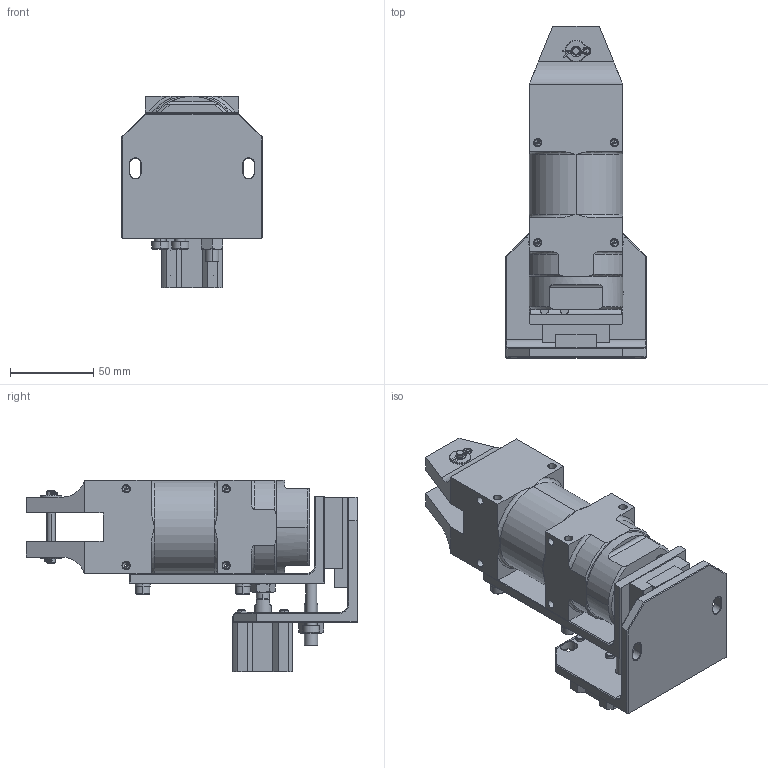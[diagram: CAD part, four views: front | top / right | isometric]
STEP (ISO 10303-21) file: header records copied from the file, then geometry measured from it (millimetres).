
FILE_DESCRIPTION (( 'STEP AP214' ), '1' );
FILE_NAME ('GTNB30LW10TM.STEP', '2019-11-29T09:04:38', ( '微软用户' ), ( '微软中国' ), 'SwSTEP 2.0', 'SolidWorks 2016', '' );
FILE_SCHEMA (( 'AUTOMOTIVE_DESIGN' ));
Length unit declared in the file: millimetre
Products named in the file (1): GTNB30LW10TM
Bounding box: 84 x 199 x 114.6 mm (x, y, z)
Surface area: 123991.5 mm2 (no closed solid volume)
Topology: 0 solids, 34 shells, 1036 faces, 2518 edges, 1520 vertices
Faces by surface type: plane 409, cylinder 317, cone 268, bspline 40, torus 2
Entity records: 44313 total; most frequent: CARTESIAN_POINT 15920, ORIENTED_EDGE 4806, DIRECTION 4801, EDGE_CURVE 2459, AXIS2_PLACEMENT_3D 1842, VERTEX_POINT 1519, EDGE_LOOP 1183, LINE 1117
